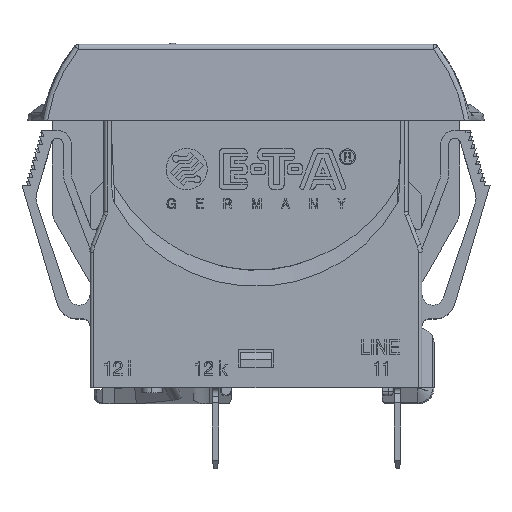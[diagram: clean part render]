
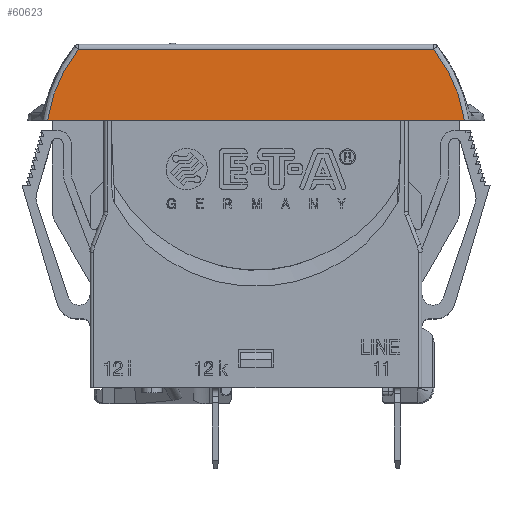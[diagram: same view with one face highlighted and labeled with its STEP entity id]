
A CAD part, top view. The second image highlights one B-rep face of the part: STEP entity #60623.
In plain terms, the highlighted planar face has unit normal (0, 0.018, 1).
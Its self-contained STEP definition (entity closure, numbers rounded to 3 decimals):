
#8426=CARTESIAN_POINT('',(-25.744,33.,12.535));
#8441=DIRECTION('',(1.,0.,0.));
#8442=VECTOR('',#8441,51.488);
#8443=CARTESIAN_POINT('',(-25.744,33.,12.535));
#8444=LINE('',#8443,#8442);
#8458=CARTESIAN_POINT('',(25.744,33.,12.535));
#22681=CARTESIAN_POINT('',(-21.95,41.81,
12.381));
#22682=CARTESIAN_POINT('',(-22.153,41.552,
12.386));
#22683=CARTESIAN_POINT('',(-22.543,41.026,
12.395));
#22684=CARTESIAN_POINT('',(-23.084,40.213,
12.409));
#22685=CARTESIAN_POINT('',(-23.582,39.375,
12.424));
#22686=CARTESIAN_POINT('',(-24.034,38.515,
12.439));
#22687=CARTESIAN_POINT('',(-24.44,37.634,
12.454));
#22688=CARTESIAN_POINT('',(-24.799,36.735,
12.47));
#22689=CARTESIAN_POINT('',(-25.11,35.82,
12.486));
#22690=CARTESIAN_POINT('',(-25.373,34.891,
12.502));
#22691=CARTESIAN_POINT('',(-25.587,33.95,
12.518));
#22692=CARTESIAN_POINT('',(-25.697,33.318,
12.529));
#22693=CARTESIAN_POINT('',(-25.744,33.,
12.535));
#22695=DIRECTION('',(-1.,0.,0.));
#22696=VECTOR('',#22695,43.899);
#22697=CARTESIAN_POINT('',(21.95,41.81,12.381));
#22698=LINE('',#22697,#22696);
#22699=CARTESIAN_POINT('',(25.744,33.,12.535));
#22700=CARTESIAN_POINT('',(25.697,33.317,12.529));
#22701=CARTESIAN_POINT('',(25.588,33.948,12.518));
#22702=CARTESIAN_POINT('',(25.374,34.887,12.502));
#22703=CARTESIAN_POINT('',(25.112,35.815,12.486));
#22704=CARTESIAN_POINT('',(24.801,36.729,12.47));
#22705=CARTESIAN_POINT('',(24.442,37.627,12.454));
#22706=CARTESIAN_POINT('',(24.037,38.509,12.439));
#22707=CARTESIAN_POINT('',(23.584,39.37,12.424));
#22708=CARTESIAN_POINT('',(23.086,40.21,12.409));
#22709=CARTESIAN_POINT('',(22.543,41.026,12.395));
#22710=CARTESIAN_POINT('',(22.153,41.552,12.386));
#22711=CARTESIAN_POINT('',(21.95,41.81,12.381));
#28798=VERTEX_POINT('',#8426);
#28800=VERTEX_POINT('',#22681);
#28801=CARTESIAN_POINT('',(21.95,41.81,12.381));
#28802=VERTEX_POINT('',#28801);
#28804=VERTEX_POINT('',#8458);
#60610=CARTESIAN_POINT('',(-27.317,35.,12.5));
#60611=DIRECTION('',(0.,0.017,1.));
#60612=DIRECTION('',(1.,0.,0.));
#60613=AXIS2_PLACEMENT_3D('',#60610,#60611,#60612);
#60614=PLANE('',#60613);
#60616=ORIENTED_EDGE('',*,*,#60615,.F.);
#60618=ORIENTED_EDGE('',*,*,#60617,.F.);
#60619=ORIENTED_EDGE('',*,*,#60603,.F.);
#60620=ORIENTED_EDGE('',*,*,#42119,.F.);
#60621=EDGE_LOOP('',(#60616,#60618,#60619,#60620));
#60622=FACE_OUTER_BOUND('',#60621,.F.);
#22694=B_SPLINE_CURVE_WITH_KNOTS('',3,(#22681,#22682,#22683,#22684,#22685,
#22686,#22687,#22688,#22689,#22690,#22691,#22692,#22693),.UNSPECIFIED.,.F.,.F.,(
4,1,1,1,1,1,1,1,1,1,4),(0.,0.1,0.2,0.3,0.4,0.5,0.6,0.7,0.8,
0.9,1.),.UNSPECIFIED.);
#22712=B_SPLINE_CURVE_WITH_KNOTS('',3,(#22699,#22700,#22701,#22702,#22703,
#22704,#22705,#22706,#22707,#22708,#22709,#22710,#22711),.UNSPECIFIED.,.F.,.F.,(
4,1,1,1,1,1,1,1,1,1,4),(0.,0.1,0.2,0.3,0.4,0.5,0.6,0.7,0.8,
0.9,1.),.UNSPECIFIED.);
#42119=EDGE_CURVE('',#28798,#28804,#8444,.T.);
#60603=EDGE_CURVE('',#28804,#28802,#22712,.T.);
#60615=EDGE_CURVE('',#28800,#28798,#22694,.T.);
#60617=EDGE_CURVE('',#28802,#28800,#22698,.T.);
#60623=ADVANCED_FACE('',(#60622),#60614,.T.);
